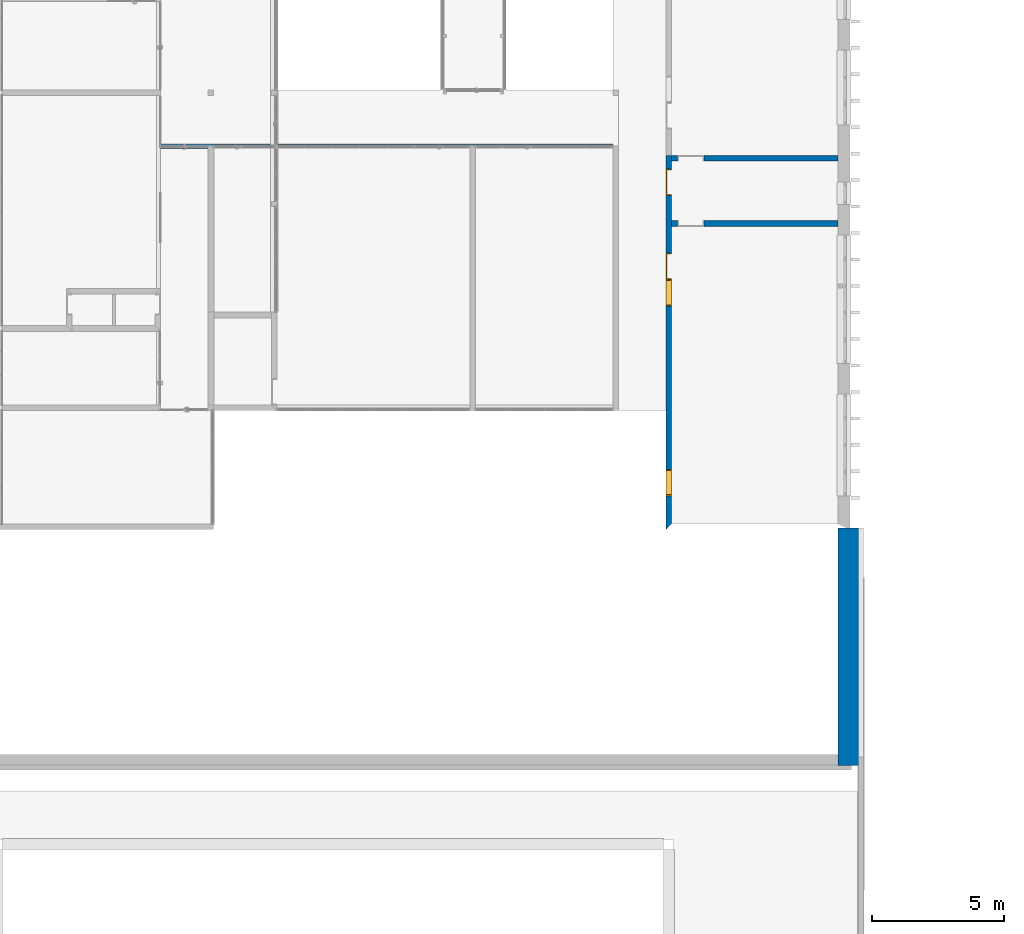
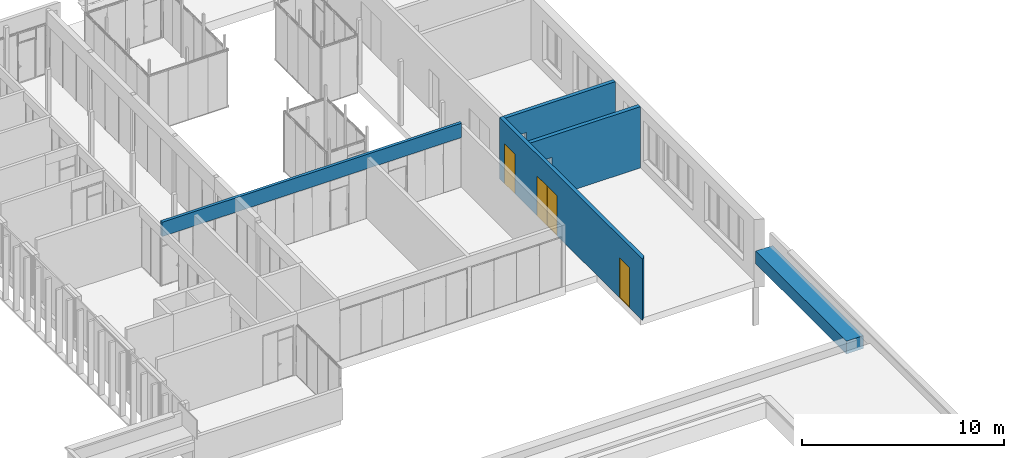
# One storey, part 30 of 387: 5 walls, 2 doors, 2 windows, 6 openings.
"""IFC2X3 building model written with IfcOpenShell, lengths in millimetres."""

from ifc_helpers import new_model, entity, si_unit, converted_unit, derived_unit, money_unit, direction, frame, origin_with_axes, origin_2d_with_axis, place, context, subcontext, project, spatial, polyline, rectangle, outline, extrude, open_shell, faceted_brep, surface_model, source, transform, mapped, material, layer, layer_set, layer_usage, type_object, element, fill, save


model = new_model("IFC2X3")

# Units and contexts
model_context = context("Model", 3, precision=0.01, world=origin_with_axes(), true_north=direction((0.0, 1.0)))
body_context = subcontext(model_context, "Body", "Model", "MODEL_VIEW")
ifc_project = project(units=[si_unit("LENGTHUNIT", "METRE", prefix="MILLI"), si_unit("AREAUNIT", "SQUARE_METRE"), si_unit("VOLUMEUNIT", "CUBIC_METRE"), converted_unit("PLANEANGLEUNIT", "DEGREE", entity("IfcPlaneAngleMeasure", 0.0174532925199), si_unit("PLANEANGLEUNIT", "RADIAN"), dimensions=[0, 0, 0, 0, 0, 0, 0]), si_unit("SOLIDANGLEUNIT", "STERADIAN"), money_unit("EUR"), converted_unit("TIMEUNIT", "Year", entity("IfcTimeMeasure", 31556926.0), si_unit("TIMEUNIT", "SECOND"), dimensions=[0, 0, 1, 0, 0, 0, 0]), si_unit("MASSUNIT", "GRAM", prefix="KILO"), si_unit("THERMODYNAMICTEMPERATUREUNIT", "DEGREE_CELSIUS"), si_unit("LUMINOUSINTENSITYUNIT", "LUMEN"), si_unit("ENERGYUNIT", "JOULE", prefix="MEGA"), derived_unit("THERMALCONDUCTANCEUNIT", [(si_unit("POWERUNIT", "WATT"), 1), (si_unit("LENGTHUNIT", "METRE"), -1), (si_unit("THERMODYNAMICTEMPERATUREUNIT", "KELVIN"), -1)]), derived_unit("SPECIFICHEATCAPACITYUNIT", [(si_unit("ENERGYUNIT", "JOULE"), 1), (si_unit("MASSUNIT", "GRAM", prefix="KILO"), -1), (si_unit("THERMODYNAMICTEMPERATUREUNIT", "KELVIN"), -1)]), derived_unit("MASSDENSITYUNIT", [(si_unit("MASSUNIT", "GRAM", prefix="KILO"), 1), (si_unit("VOLUMEUNIT", "CUBIC_METRE"), -1)])], contexts=[model_context])

# Site, building, storey
site_placement = place(None, origin_with_axes())
site = spatial("IfcSite", under=ifc_project, at=site_placement, Name="Puškini 31, Narva", CompositionType="ELEMENT")
building_placement = place(site_placement, origin_with_axes())
building = spatial("IfcBuilding", under=site, at=building_placement, Name="Narva Riigigümnaasium", CompositionType="ELEMENT")
storey_placement = place(building_placement, frame((0.0, 0.0, 2640.0), z_axis=(0.0, 0.0, 1.0), x_axis=(1.0, 0.0, 0.0)))
storey = spatial("IfcBuildingStorey", under=building, at=storey_placement, Name="2.korrus +2.64", CompositionType="ELEMENT", Elevation=2640.0)

# Wall, openings, windows, doors
ifc_material_1 = material(Name="Betoon element")
ifc_layer_1 = layer(ifc_material_1, 200.0, ventilated="UNKNOWN")
ifc_material_2 = material(Name="siseviimistlus-seinad")
ifc_layer_2 = layer(ifc_material_2, 10.0, ventilated="UNKNOWN")
ifc_layer_set_1 = layer_set([ifc_layer_1, ifc_layer_2], Name="G-SS-01-02")
ifc_layer_usage_1 = layer_usage(ifc_layer_set_1, "AXIS2", "POSITIVE", 0.0)
wall_type_1 = type_object("IfcWallType", Name="G-SS-01-02 210", PredefinedType="NOTDEFINED")
wall_1_placement = place(storey_placement, frame((47499.9999936, 173130.000006, 0.0), z_axis=(0.0, 0.0, 1.0), x_axis=(0.0, -1.0, 0.0)))
wall_1 = element("IfcWallStandardCase", 1, at=wall_1_placement, inside=storey, type_object=wall_type_1, material=ifc_layer_usage_1, Name="Sisesein", context=body_context, shape_type="SweptSolid", body=[
    extrude(outline(polyline([(0.0, 0.0), (14130.0000062, 0.0), (13915.0000062, 210.0), (0.0, 210.0), (0.0, 0.0)])), origin_with_axes(), (0.0, 0.0, 1.0), 3700.0),
])
opening_1_placement = place(wall_1_placement, frame((5180.00002154, 0.0, 0.0), z_axis=(0.0, 0.0, 1.0), x_axis=(1.0, 0.0, 0.0)))
opening_1 = element("IfcOpeningElement", 2, at=opening_1_placement, cuts=wall_1, Name="G-SA-1", context=body_context, shape_type="SweptSolid", body=[
    extrude(rectangle(XDim=1000.0, YDim=2400.0, at=origin_2d_with_axis()), frame((0.0, 210.0, 1200.0), z_axis=(0.0, -1.0, 0.0), x_axis=(-1.0, 0.0, 0.0)), (0.0, 0.0, 1.0), 630.0),
])
opening_2_placement = place(wall_1_placement, frame((12355.0000062, 0.0, 0.0), z_axis=(0.0, 0.0, 1.0), x_axis=(1.0, 0.0, 0.0)))
opening_2 = element("IfcOpeningElement", 3, at=opening_2_placement, cuts=wall_1, Name="G-SA-1", context=body_context, shape_type="SweptSolid", body=[
    extrude(rectangle(XDim=1000.0, YDim=2400.0, at=origin_2d_with_axis()), frame((0.0, 210.0, 1200.0), z_axis=(0.0, 1.0, 0.0), x_axis=(1.0, 0.0, 0.0)), (0.0, 0.0, -1.0), 630.0),
])
opening_3_placement = place(wall_1_placement, frame((4180.00002152, 0.0, 0.0), z_axis=(0.0, 0.0, 1.0), x_axis=(1.0, 0.0, 0.0)))
opening_3 = element("IfcOpeningElement", 4, at=opening_3_placement, cuts=wall_1, Name="G-SU-069", context=body_context, shape_type="SweptSolid", body=[
    extrude(rectangle(XDim=1000.00000006, YDim=2400.0, at=origin_2d_with_axis()), frame((0.0, 210.0, 1200.0), z_axis=(0.0, 1.0, 0.0), x_axis=(1.0, 0.0, 0.0)), (0.0, 0.0, -1.0), 630.0),
])
opening_4_placement = place(wall_1_placement, frame((1005.00000615, 0.0, 0.0), z_axis=(0.0, 0.0, 1.0), x_axis=(1.0, 0.0, 0.0)))
opening_4 = element("IfcOpeningElement", 5, at=opening_4_placement, cuts=wall_1, Name="G-SU-067", context=body_context, shape_type="SweptSolid", body=[
    extrude(rectangle(XDim=1000.00000006, YDim=2400.0, at=origin_2d_with_axis()), frame((0.0, 210.0, 1200.0), z_axis=(0.0, 1.0, 0.0), x_axis=(1.0, 0.0, 0.0)), (0.0, 0.0, -1.0), 630.0),
])
window_style = type_object("IfcWindowStyle", Name="Window 23", ConstructionType="NOTDEFINED", OperationType="SINGLE_PANEL", ParameterTakesPrecedence=False, Sizeable=False)
shared_shape_1 = source(origin_with_axes(), body_context, "Body", "SurfaceModel", [
    faceted_brep([(-460.0, -210.0, 2360.0), (-460.0, 0.0, 2360.0), (-500.0, 0.0, 2360.0), (-500.0, -210.0, 2360.0), (-460.0, -210.0, 40.0), (-460.0, 0.0, 40.0), (-500.0, 0.0, 40.0), (-500.0, -210.0, 40.0)], [[[0, 1, 2, 3]], [[4, 5, 1, 0]], [[1, 5, 6, 2]], [[3, 2, 6, 7]], [[0, 3, 7, 4]], [[7, 6, 5, 4]]]),
    faceted_brep([(460.0, -210.0, 40.0), (460.0, 0.0, 40.0), (500.0, 0.0, 40.0), (500.0, -210.0, 40.0), (460.0, -210.0, 2360.0), (460.0, 0.0, 2360.0), (500.0, 0.0, 2360.0), (500.0, -210.0, 2360.0)], [[[0, 1, 2, 3]], [[4, 5, 1, 0]], [[1, 5, 6, 2]], [[3, 2, 6, 7]], [[0, 3, 7, 4]], [[7, 6, 5, 4]]]),
    faceted_brep([(-460.0, -210.0, 40.0), (-460.0, 0.0, 40.0), (-500.0, 0.0, 40.0), (-500.0, -210.0, 40.0), (460.0, -210.0, 40.0), (460.0, 0.0, 40.0), (500.0, 0.0, 40.0), (500.0, 0.0, 0.0), (-500.0, 0.0, 0.0), (-500.0, -210.0, 0.0), (500.0, -210.0, 0.0), (500.0, -210.0, 40.0)], [[[0, 1, 2, 3]], [[4, 5, 1, 0]], [[1, 5, 6, 7, 8, 2]], [[3, 2, 8, 9]], [[0, 3, 9, 10, 11, 4]], [[11, 6, 5, 4]], [[10, 7, 6, 11]], [[9, 8, 7, 10]]]),
    faceted_brep([(460.0, -210.0, 2360.0), (460.0, 0.0, 2360.0), (500.0, 0.0, 2360.0), (500.0, -210.0, 2360.0), (-460.0, -210.0, 2360.0), (-460.0, 0.0, 2360.0), (-500.0, 0.0, 2360.0), (-500.0, 0.0, 2400.0), (500.0, 0.0, 2400.0), (500.0, -210.0, 2400.0), (-500.0, -210.0, 2400.0), (-500.0, -210.0, 2360.0)], [[[0, 1, 2, 3]], [[4, 5, 1, 0]], [[1, 5, 6, 7, 8, 2]], [[3, 2, 8, 9]], [[0, 3, 9, 10, 11, 4]], [[11, 6, 5, 4]], [[10, 7, 6, 11]], [[9, 8, 7, 10]]]),
    surface_model("IfcShellBasedSurfaceModel", [(-460.0, -35.0, 40.0), (460.0, -35.0, 40.0), (460.0, -35.0, 2360.0), (-460.0, -35.0, 2360.0)], [open_shell([[[0, 1, 2, 3]]])]),
    surface_model("IfcShellBasedSurfaceModel", [(-460.0, -15.0, 40.0), (-460.0, -15.0, 2360.0), (460.0, -15.0, 2360.0), (460.0, -15.0, 40.0)], [open_shell([[[0, 1, 2, 3]]])]),
])
window_1_placement = place(opening_1_placement, frame((500.0, 0.0, 0.0), z_axis=(0.0, 0.0, 1.0), x_axis=(-1.0, 0.0, 0.0)))
window_1 = element("IfcWindow", 6, at=window_1_placement, inside=storey, type_object=window_style, Name="G-SA-1", ObjectType="WINDOW", OverallHeight=2400.0, OverallWidth=1000.0, context=body_context, shape_type="MappedRepresentation", body=[
    mapped(shared_shape_1, transform((500.0, 0.0, 0.0))),
])
fill(opening_1, window_1)
shared_shape_2 = source(origin_with_axes(), body_context, "Body", "SurfaceModel", [
    faceted_brep([(460.0, -210.0, 2360.0), (500.0, -210.0, 2360.0), (500.0, 0.0, 2360.0), (460.0, 0.0, 2360.0), (460.0, -210.0, 40.0), (500.0, -210.0, 40.0), (500.0, 0.0, 40.0), (460.0, 0.0, 40.0)], [[[0, 1, 2, 3]], [[0, 4, 5, 1]], [[1, 5, 6, 2]], [[3, 2, 6, 7]], [[4, 0, 3, 7]], [[5, 4, 7, 6]]]),
    faceted_brep([(-460.0, -210.0, 40.0), (-500.0, -210.0, 40.0), (-500.0, 0.0, 40.0), (-460.0, 0.0, 40.0), (-460.0, -210.0, 2360.0), (-500.0, -210.0, 2360.0), (-500.0, 0.0, 2360.0), (-460.0, 0.0, 2360.0)], [[[0, 1, 2, 3]], [[0, 4, 5, 1]], [[1, 5, 6, 2]], [[3, 2, 6, 7]], [[4, 0, 3, 7]], [[5, 4, 7, 6]]]),
    faceted_brep([(460.0, -210.0, 40.0), (500.0, -210.0, 40.0), (500.0, 0.0, 40.0), (460.0, 0.0, 40.0), (-460.0, -210.0, 40.0), (-500.0, -210.0, 40.0), (-500.0, -210.0, 0.0), (500.0, -210.0, 0.0), (500.0, 0.0, 0.0), (-500.0, 0.0, 0.0), (-500.0, 0.0, 40.0), (-460.0, 0.0, 40.0)], [[[0, 1, 2, 3]], [[0, 4, 5, 6, 7, 1]], [[1, 7, 8, 2]], [[3, 2, 8, 9, 10, 11]], [[4, 0, 3, 11]], [[5, 4, 11, 10]], [[6, 5, 10, 9]], [[7, 6, 9, 8]]]),
    faceted_brep([(-460.0, -210.0, 2360.0), (-500.0, -210.0, 2360.0), (-500.0, 0.0, 2360.0), (-460.0, 0.0, 2360.0), (460.0, -210.0, 2360.0), (500.0, -210.0, 2360.0), (500.0, -210.0, 2400.0), (-500.0, -210.0, 2400.0), (-500.0, 0.0, 2400.0), (500.0, 0.0, 2400.0), (500.0, 0.0, 2360.0), (460.0, 0.0, 2360.0)], [[[0, 1, 2, 3]], [[0, 4, 5, 6, 7, 1]], [[1, 7, 8, 2]], [[3, 2, 8, 9, 10, 11]], [[4, 0, 3, 11]], [[5, 4, 11, 10]], [[6, 5, 10, 9]], [[7, 6, 9, 8]]]),
    surface_model("IfcShellBasedSurfaceModel", [(460.0, -35.0, 40.0), (460.0, -35.0, 2360.0), (-460.0, -35.0, 2360.0), (-460.0, -35.0, 40.0)], [open_shell([[[0, 1, 2, 3]]])]),
    surface_model("IfcShellBasedSurfaceModel", [(460.0, -15.0, 40.0), (-460.0, -15.0, 40.0), (-460.0, -15.0, 2360.0), (460.0, -15.0, 2360.0)], [open_shell([[[0, 1, 2, 3]]])]),
])
window_2_placement = place(opening_2_placement, frame((500.0, 0.0, 0.0), z_axis=(0.0, 0.0, 1.0), x_axis=(-1.0, 0.0, 0.0)))
window_2 = element("IfcWindow", 7, at=window_2_placement, inside=storey, type_object=window_style, Name="G-SA-1", ObjectType="WINDOW", OverallHeight=2400.0, OverallWidth=1000.0, context=body_context, shape_type="MappedRepresentation", body=[
    mapped(shared_shape_2, transform((500.0, 0.0, 0.0))),
])
fill(opening_2, window_2)
door_style = type_object("IfcDoorStyle", Name="Door 23", ConstructionType="NOTDEFINED", OperationType="SINGLE_SWING_LEFT", ParameterTakesPrecedence=False, Sizeable=False)
shared_shape_3 = source(origin_with_axes(), body_context, "Body", "Brep", [
    faceted_brep([(500.000000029, 0.0, 0.0), (500.000000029, -210.0, 0.0), (460.000000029, -210.0, 0.0), (460.000000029, 0.0, 0.0), (500.000000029, 0.0, 2360.0), (500.000000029, -210.0, 2360.0), (460.000000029, -210.0, 2360.0), (460.000000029, 0.0, 2360.0)], [[[0, 1, 2, 3]], [[4, 5, 1, 0]], [[1, 5, 6, 2]], [[3, 2, 6, 7]], [[0, 3, 7, 4]], [[7, 6, 5, 4]]]),
    faceted_brep([(-500.000000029, 0.0, 0.0), (-500.000000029, -210.0, 0.0), (-500.000000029, -210.0, 2360.0), (-500.000000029, 0.0, 2360.0), (-460.000000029, 0.0, 0.0), (-460.000000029, -210.0, 0.0), (-460.000000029, -210.0, 2360.0), (-460.000000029, 0.0, 2360.0)], [[[0, 1, 2, 3]], [[4, 5, 1, 0]], [[1, 5, 6, 2]], [[3, 2, 6, 7]], [[0, 3, 7, 4]], [[7, 6, 5, 4]]]),
    faceted_brep([(500.000000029, 0.0, 2400.0), (500.000000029, -210.0, 2400.0), (500.000000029, -210.0, 2360.0), (500.000000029, 0.0, 2360.0), (-500.000000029, 0.0, 2400.0), (-500.000000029, -210.0, 2400.0), (-500.000000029, -210.0, 2360.0), (-460.000000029, -210.0, 2360.0), (460.000000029, -210.0, 2360.0), (460.000000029, 0.0, 2360.0), (-460.000000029, 0.0, 2360.0), (-500.000000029, 0.0, 2360.0)], [[[0, 1, 2, 3]], [[4, 5, 1, 0]], [[1, 5, 6, 7, 8, 2]], [[3, 2, 8, 9]], [[0, 3, 9, 10, 11, 4]], [[11, 6, 5, 4]], [[10, 7, 6, 11]], [[9, 8, 7, 10]]]),
    faceted_brep([(-460.000000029, 0.0, 0.0), (460.000000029, 0.0, 0.0), (460.000000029, -40.0, 0.0), (-460.000000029, -40.0, 0.0), (-460.000000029, 0.0, 2360.0), (460.000000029, 0.0, 2360.0), (460.000000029, -40.0, 2360.0), (-460.000000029, -40.0, 2360.0)], [[[0, 1, 2, 3]], [[0, 4, 5, 1]], [[1, 5, 6, 2]], [[3, 2, 6, 7]], [[4, 0, 3, 7]], [[5, 4, 7, 6]]]),
])
door_1_placement = place(opening_3_placement, frame((500.000000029, 0.0, 0.0), z_axis=(0.0, 0.0, 1.0), x_axis=(-1.0, 0.0, 0.0)))
door_1 = element("IfcDoor", 8, at=door_1_placement, inside=storey, type_object=door_style, Name="G-SU-069", ObjectType="DOOR", OverallHeight=2400.0, OverallWidth=1000.0, context=body_context, shape_type="MappedRepresentation", body=[
    mapped(shared_shape_3, transform((500.000000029, 0.0, 0.0))),
])
fill(opening_3, door_1)
door_2_placement = place(opening_4_placement, frame((500.000000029, 0.0, 0.0), z_axis=(0.0, 0.0, 1.0), x_axis=(-1.0, 0.0, 0.0)))
door_2 = element("IfcDoor", 9, at=door_2_placement, inside=storey, type_object=door_style, Name="G-SU-067", ObjectType="DOOR", OverallHeight=2400.0, OverallWidth=1000.0, context=body_context, shape_type="MappedRepresentation", body=[
    mapped(shared_shape_3, transform((500.000000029, 0.0, 0.0))),
])
fill(opening_4, door_2)

# Wall, opening
ifc_layer_set_2 = layer_set([ifc_layer_2, ifc_layer_1, ifc_layer_2], Name="G-SS-01-01")
ifc_layer_usage_2 = layer_usage(ifc_layer_set_2, "AXIS2", "POSITIVE", -10.0)
wall_type_2 = type_object("IfcWallType", Name="G-SS-01-01 220", PredefinedType="NOTDEFINED")
wall_2_placement = place(storey_placement, frame((54000.0000018, 170659.999985, 0.0), z_axis=(0.0, 0.0, 1.0), x_axis=(-1.0, 0.0, 0.0)))
wall_2 = element("IfcWallStandardCase", 10, at=wall_2_placement, inside=storey, type_object=wall_type_2, material=ifc_layer_usage_2, Name="Sisesein", context=body_context, shape_type="SweptSolid", body=[
    extrude(outline(polyline([(10.0, -9.99999999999), (6290.00000819, -9.99999999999), (6290.00000819, 210.0), (10.0, 210.0), (10.0, -9.99999999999)])), origin_with_axes(), (0.0, 0.0, 1.0), 3700.0),
])
opening_5_placement = place(wall_2_placement, frame((5570.00000816, 0.0, 0.0), z_axis=(0.0, 0.0, 1.0), x_axis=(1.0, 0.0, 0.0)))
element("IfcOpeningElement", 11, at=opening_5_placement, cuts=wall_2, Name="G-SU-068", context=body_context, shape_type="SweptSolid", body=[
    extrude(rectangle(XDim=1000.00000006, YDim=2400.0, at=origin_2d_with_axis()), frame((0.0, -220.0, 1200.0), z_axis=(0.0, 1.0, 0.0), x_axis=(1.0, 0.0, 0.0)), (0.0, 0.0, 1.0), 660.0),
])

ifc_material_3 = material(Name="õõnes betoonplokk")
ifc_layer_3 = layer(ifc_material_3, 190.0, ventilated="UNKNOWN")
ifc_layer_set_3 = layer_set([ifc_layer_2, ifc_layer_3, ifc_layer_2], Name="G-SS-02")
ifc_layer_usage_3 = layer_usage(ifc_layer_set_3, "AXIS2", "POSITIVE", -10.0)
wall_type_3 = type_object("IfcWallType", Name="G-SS-02 210", PredefinedType="NOTDEFINED")
wall_3_placement = place(storey_placement, frame((54000.0000018, 173130.000006, 0.0), z_axis=(0.0, 0.0, 1.0), x_axis=(-1.0, 0.0, 0.0)))
wall_3 = element("IfcWallStandardCase", 12, at=wall_3_placement, inside=storey, type_object=wall_type_3, material=ifc_layer_usage_3, Name="Sisesein", context=body_context, shape_type="SweptSolid", body=[
    extrude(outline(polyline([(10.0, -9.99999999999), (6290.00000819, -9.99999999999), (6290.00000819, 200.0), (10.0, 200.0), (10.0, -9.99999999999)])), origin_with_axes(), (0.0, 0.0, 1.0), 3700.0),
])
opening_6_placement = place(wall_3_placement, frame((5570.00000816, 0.0, 0.0), z_axis=(0.0, 0.0, 1.0), x_axis=(1.0, 0.0, 0.0)))
element("IfcOpeningElement", 13, at=opening_6_placement, cuts=wall_3, Name="G-SU-066", context=body_context, shape_type="SweptSolid", body=[
    extrude(rectangle(XDim=1000.00000006, YDim=2400.0, at=origin_2d_with_axis()), frame((0.0, -210.0, 1200.0), z_axis=(0.0, -1.0, 0.0), x_axis=(1.0, 0.0, 0.0)), (0.0, 0.0, -1.0), 630.0),
])

# Walls
ifc_material_4 = material(Name="fassaadiplaat")
ifc_layer_4 = layer(ifc_material_4, 8.0, ventilated="UNKNOWN")
ifc_material_5 = material(Name="VKR-06_Õhkvahe")
ifc_layer_5 = layer(ifc_material_5, 550.0, ventilated="UNKNOWN")
ifc_material_6 = material(Name="Salto-PIR soojustus")
ifc_layer_6 = layer(ifc_material_6, 50.0, ventilated="UNKNOWN")
ifc_layer_7 = layer(ifc_material_6, 150.0, ventilated="UNKNOWN")
ifc_layer_set_4 = layer_set([ifc_layer_4, ifc_layer_5, ifc_layer_6, ifc_layer_7, ifc_layer_1, ifc_layer_2], Name="G-VS-01-P2")
ifc_layer_usage_4 = layer_usage(ifc_layer_set_4, "AXIS2", "NEGATIVE", 958.0)
wall_type_4 = type_object("IfcWallType", Name="G-VS-01-P2 968", PredefinedType="NOTDEFINED")
wall_4_placement = place(storey_placement, frame((54000.0, 159052.673612, 1120.0000193), z_axis=(0.0, 0.0, 1.0), x_axis=(0.0, -1.0, 0.0)))
element("IfcWallStandardCase", 14, at=wall_4_placement, inside=storey, type_object=wall_type_4, material=ifc_layer_usage_4, Name="Sisesein", context=body_context, shape_type="SweptSolid", body=[
    extrude(outline(polyline([(0.0, -10.0), (8967.67360806, -10.0), (8967.67360806, 958.0), (0.0, 958.0), (0.0, -10.0)])), origin_with_axes(), (0.0, 0.0, 1.0), 774.999980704),
])
ifc_material_7 = material(Name="Kipsplaat")
ifc_layer_8 = layer(ifc_material_7, 12.5, ventilated="UNKNOWN")
ifc_layer_9 = layer(ifc_material_7, 12.0, ventilated="UNKNOWN")
ifc_material_8 = material(Name="SOJ-03_Soojustus - Mineraal Pehme")
ifc_layer_10 = layer(ifc_material_8, 50.0, ventilated="UNKNOWN")
ifc_layer_11 = layer(ifc_material_5, 15.0, ventilated="UNKNOWN")
ifc_layer_12 = layer(ifc_material_7, 13.0, ventilated="UNKNOWN")
ifc_layer_set_5 = layer_set([ifc_layer_8, ifc_layer_9, ifc_layer_10, ifc_layer_11, ifc_layer_10, ifc_layer_9, ifc_layer_12], Name="G-SS-13")
ifc_layer_usage_5 = layer_usage(ifc_layer_set_5, "AXIS2", "POSITIVE", -82.25)
wall_type_5 = type_object("IfcWallType", Name="G-SS-13 165", PredefinedType="NOTDEFINED")
wall_5_placement = place(storey_placement, frame((45700.0000034, 173475.03609, 3030.00001201), z_axis=(0.0, 0.0, 1.0), x_axis=(-1.0, 0.0, 0.0)))
element("IfcWallStandardCase", 15, at=wall_5_placement, inside=storey, type_object=wall_type_5, material=ifc_layer_usage_5, Name="Sisesein", context=body_context, shape_type="SweptSolid", body=[
    extrude(outline(polyline([(210.0, -82.25), (17300.0000046, -82.25), (17300.0000046, 82.25), (210.0, 82.25), (210.0, -82.25)])), origin_with_axes(), (0.0, 0.0, 1.0), 864.999987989),
])

save(model, "model.ifc")
